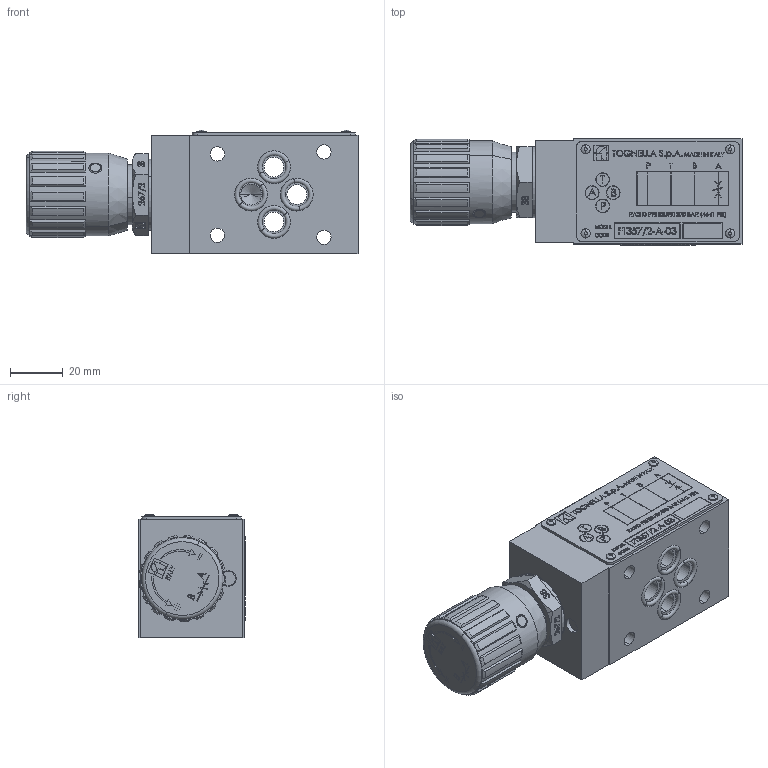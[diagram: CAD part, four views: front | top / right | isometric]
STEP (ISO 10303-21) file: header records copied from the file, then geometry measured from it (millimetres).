
FILE_DESCRIPTION (( 'STEP AP214' ), '1' );
FILE_NAME ('FT357-2-A-03.STEP', '2014-06-16T13:57:13', ( '' ), ( '' ), 'SwSTEP 2.0', 'SolidWorks 2014', '' );
FILE_SCHEMA (( 'AUTOMOTIVE_DESIGN' ));
Length unit declared in the file: millimetre
Products named in the file (15): 357-6-A001000; FT357-2-A-03; HK060CK55-111; OR3068; FT267_2-38; OR2050; AnelloFT267_2-38; GranoFT267_2-38_Tipo14; DiscoFascetta267_2-38; CappuccioFT267_2-38_Tipo38; Volantino267_2-38_Tipo38; CorpoValvolaFT267_2-38; RivettoTarga; OR2037; 357-2-A015000
Assembly tree (21 placements, depth 3):
  FT357-2-A-03
    357-6-A001000
    357-2-A015000
    OR2037  x4
    RivettoTarga  x4
    FT267_2-38
      CorpoValvolaFT267_2-38
      Volantino267_2-38_Tipo38
      CappuccioFT267_2-38_Tipo38
      DiscoFascetta267_2-38
      GranoFT267_2-38_Tipo14
      AnelloFT267_2-38  x2
      OR2050
    OR3068
    HK060CK55-111
Bounding box: 126.3 x 40.38 x 46.96 mm (x, y, z)
Volume: 155384.9 mm3; surface area: 50346.1 mm2
Topology: 20 solids, 20 shells, 1957 faces, 5054 edges, 3316 vertices
Faces by surface type: plane 1175, bspline 421, cylinder 210, cone 109, torus 42
Entity records: 97889 total; most frequent: CARTESIAN_POINT 37713, ORIENTED_EDGE 9868, DIRECTION 7495, EDGE_CURVE 4934, LINE 3423, VECTOR 3423, VERTEX_POINT 3254, EDGE_LOOP 2146
